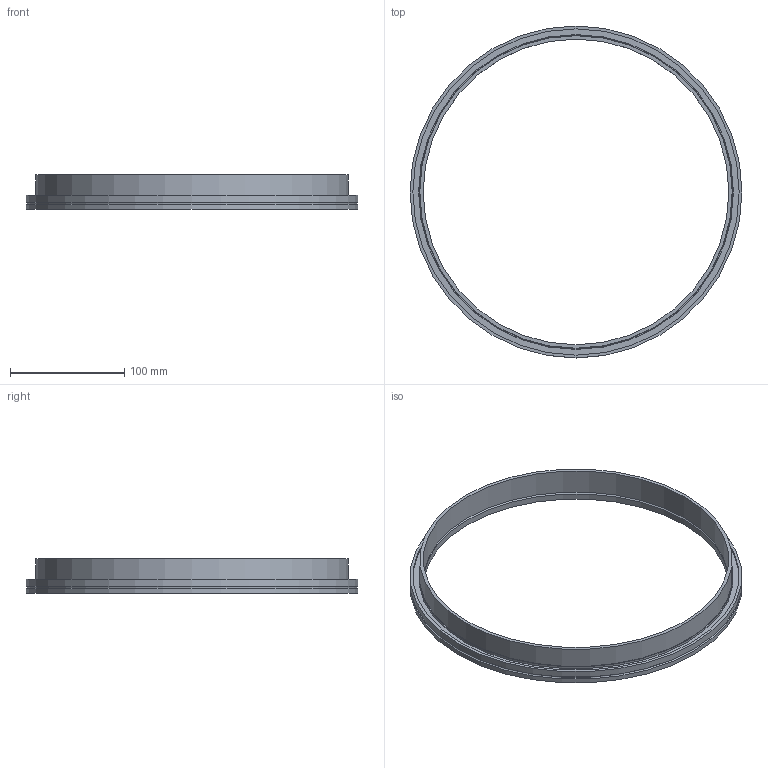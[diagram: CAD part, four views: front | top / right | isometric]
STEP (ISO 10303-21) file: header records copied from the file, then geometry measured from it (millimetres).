
FILE_DESCRIPTION( ( 'Unknown' ), '1' );
FILE_NAME( 'X:/Daten ( aktueller Bestand )/Projekte und Zeichnungen/Solid Edge/STP-Dateien/ISO-K Teile und Zubehör/65254.stp', 'Unknown', ( 'Unknown' ), ( 'Unknown' ), 'PSStep 14.0', 'Unknown', ' ' );
FILE_SCHEMA( ( 'AUTOMOTIVE_DESIGN { 1 0 10303 214 1 1 1 1 }' ) );
Length unit declared in the file: millimetre
Products named in the file (3): Assem1; 6515; 6525-1
Assembly tree (2 placements, depth 2):
  Assem1
    6515
    6525-1
Bounding box: 290 x 290 x 30 mm (x, y, z)
Volume: 153089.9 mm3; surface area: 88046.3 mm2
Topology: 2 solids, 2 shells, 17 faces, 27 edges, 17 vertices
Faces by surface type: cylinder 8, plane 7, cone 1, torus 1
Full cylindrical faces by diameter (mm): 267 x2, 273 x1, 273.8 x1, 275 x1, 285 x1, 290 x2
Entity records: 542 total; most frequent: DIRECTION 74, CARTESIAN_POINT 54, AXIS2_PLACEMENT_3D 37, EDGE_LOOP 34, ORIENTED_EDGE 34, FACE_OUTER_BOUND 26, STYLED_ITEM 17, PRESENTATION_STYLE_ASSIGNMENT 17
